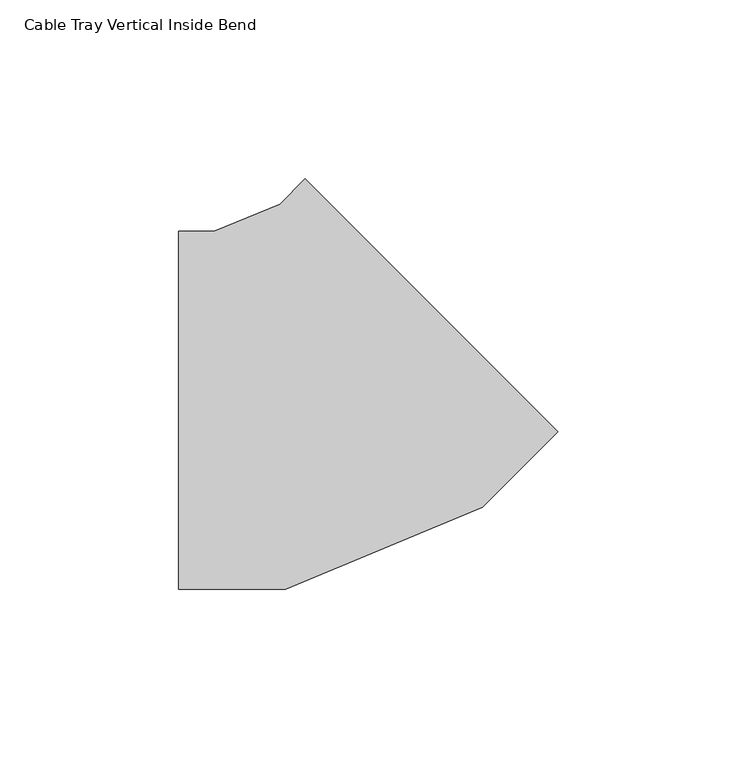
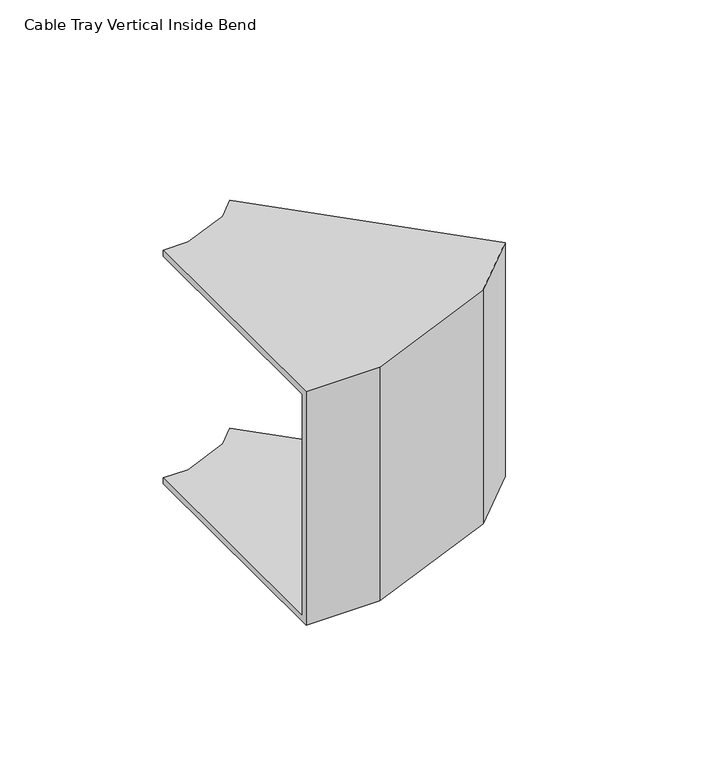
"""IFC4 building model written with IfcOpenShell, lengths in millimetres: cable carrier fitting geometry, Cable Tray Vertical Inside Bend : ELEC_ELV_TKG_N2402."""

from ifc_helpers import new_model, si_unit, origin, place, context, project, spatial, faceted_brep, source, transform, mapped, element, save


def cable_tray_vertical_inside_bend_b1ce3206(model_context):
    return source(origin(), model_context, "Body", "Brep", [
        faceted_brep([(-41.4213562, 50.0, 50.0), (-41.4213562, 50.0, 47.46), (-41.4213562, -47.46, 47.46), (-41.4213562, -47.46, -47.46), (-41.4213562, 50.0, -47.46), (-41.4213562, 50.0, -50.0), (-41.4213562, -50.0, -50.0), (-41.4213562, -50.0, 50.0), (-6.0660172, 64.6446609, 50.0), (64.6446609, -6.0660172, 50.0), (64.6446609, -6.0660172, -50.0), (-6.0660172, 64.6446609, -50.0), (-6.0660172, 64.6446609, -47.46), (62.8486097, -4.269966, -47.46), (62.8486097, -4.269966, 47.46), (-6.0660172, 64.6446609, 47.46), (-31.4757379, 50.0, 50.0), (-31.4757379, 50.0, 47.46), (-13.0986314, 57.6120467, 47.46), (42.1080239, -25.0105517, 47.46), (-12.0897385, -47.46, 47.46), (-12.0897385, -47.46, -47.46), (42.1080239, -25.0105517, -47.46), (-13.0986314, 57.6120467, -47.46), (-31.4757379, 50.0, -47.46), (-31.4757379, 50.0, -50.0), (-13.0986314, 57.6120467, -50.0), (43.5468184, -27.1638598, -50.0), (-11.5845011, -50.0, -50.0), (-11.5845011, -50.0, 50.0), (43.5468184, -27.1638598, 50.0), (-13.0986314, 57.6120467, 50.0)], [[[0, 1, 2, 3, 4, 5, 6, 7]], [[8, 9, 10, 11, 12, 13, 14, 15]], [[1, 0, 16, 17]], [[2, 1, 17, 18, 15, 14, 19, 20]], [[3, 2, 20, 21]], [[4, 3, 21, 22, 13, 12, 23, 24]], [[5, 4, 24, 25]], [[6, 5, 25, 26, 11, 10, 27, 28]], [[7, 6, 28, 29]], [[0, 7, 29, 30, 9, 8, 31, 16]], [[17, 16, 31, 18]], [[21, 20, 19, 22]], [[25, 24, 23, 26]], [[29, 28, 27, 30]], [[18, 31, 8, 15]], [[22, 19, 14, 13]], [[26, 23, 12, 11]], [[30, 27, 10, 9]]]),
    ])


if __name__ == "__main__":
    model = new_model("IFC4")
    model_context = context("Model", 3, world=origin())
    ifc_project = project(units=[si_unit("LENGTHUNIT", "METRE", prefix="MILLI")], contexts=[model_context])
    site = spatial("IfcSite", under=ifc_project)
    building = spatial("IfcBuilding", under=site)
    placement = place(None, origin())
    cable_tray_vertical_inside_bend_shape = cable_tray_vertical_inside_bend_b1ce3206(model_context)
    element("IfcCableCarrierFitting", 1, ObjectType="Cable Tray Vertical Inside Bend : ELEC_ELV_TKG_N2402", at=placement, inside=building, context=model_context, shape_type="MappedRepresentation", body=[
        mapped(cable_tray_vertical_inside_bend_shape, transform((0.0, 0.0, 0.0), x_axis=(1.0, 0.0, 0.0), y_axis=(0.0, 1.0, 0.0), z_axis=(0.0, 0.0, 1.0))),
    ])
    save(model, "model.ifc")
